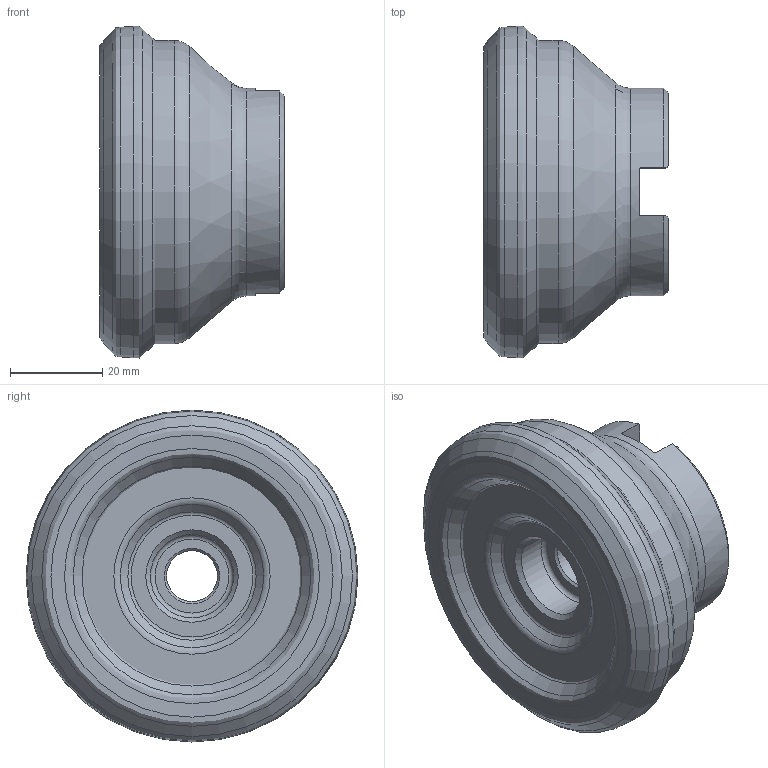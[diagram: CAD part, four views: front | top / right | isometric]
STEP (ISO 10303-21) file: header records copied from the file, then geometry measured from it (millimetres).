
FILE_DESCRIPTION(/* description */ (''),/* implementation_level */ '2;1');
FILE_NAME(/* name */ 'Stp.stp',/* time_stamp */ '2021-03-16T00:31:22+08:00',/* author */ (''),/* organization */ (''),/* preprocessor_version */ 'ST-DEVELOPER v16.7',/* originating_system */ 'SIEMENS PLM Software NX 12.0',/* authorisation */ '');
FILE_SCHEMA (('AUTOMOTIVE_DESIGN { 1 0 10303 214 3 1 1 1 }'));
Length unit declared in the file: millimetre
Products named in the file (2): OFKT05T3-DF; FMA04-063-A22-OF05-05_S
Assembly tree (5 placements, depth 2):
  FMA04-063-A22-OF05-05_S
    OFKT05T3-DF  x5
Bounding box: 39.95 x 71.86 x 71.89 mm (x, y, z)
Volume: 108080.1 mm3; surface area: 22422.3 mm2
Topology: 2 solids, 2 shells, 76 faces, 180 edges, 110 vertices
Faces by surface type: plane 20, revolution 16, cone 15, torus 15, cylinder 10
Full cylindrical faces by diameter (mm): 11 x1, 18 x1, 22 x1, 24 x1, 45 x1, 65.647 x1
Entity records: 2354 total; most frequent: CARTESIAN_POINT 716, DIRECTION 302, ORIENTED_EDGE 236, AXIS2_PLACEMENT_3D 131, EDGE_LOOP 126, EDGE_CURVE 118, FACE_BOUND 102, VERTEX_POINT 94
